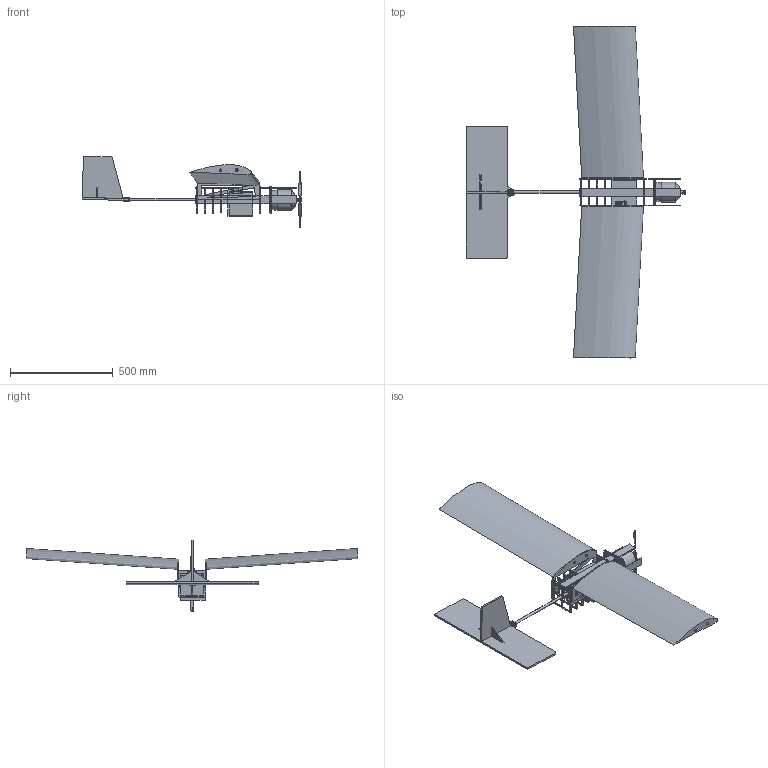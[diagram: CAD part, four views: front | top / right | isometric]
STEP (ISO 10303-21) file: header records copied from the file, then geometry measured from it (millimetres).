
FILE_DESCRIPTION(/* description */ (''),/* implementation_level */ '2;1');
FILE_NAME(/* name */ '3605247e-8c10-4901-b011-8f8c34718495.stp',/* time_stamp */ '2023-08-26T20:50:06Z',/* author */ (''),/* organization */ (''),/* preprocessor_version */ 'ST-DEVELOPER v20',/* originating_system */ 'Autodesk Translation Framework v12.14.0.127',/* authorisation */ '');
FILE_SCHEMA (('AUTOMOTIVE_DESIGN { 1 0 10303 214 3 1 1 }'));
Products named in the file (42): Fuselage v23; Horizontal Wood PIece; Vertical Wood Piece; Boom; BulkHead for boom & wing fixation; BulkHead for boom 1; servo_Payload_release; Component1; Component2; Component3; Component4; Component5; Component6; Component7; Component8; Component9; Component10; Component11; box; M8-1; Motor shield; Propeller; Wing conection; wing; Foam; wing3; Foam (1); Left; motor; Foam(Mirror); Left(Mirror); Wooden Tail Connectors; Wooden Tail Connector 1; Wooden Tail Connector 2; Wooden Tail Connector 3; Wooden Tail Connector 4; Wooden Tail Connector 5; Wooden Tail Connector 6; Wooden Tail Connector 7; Horizontal Tail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
Assembly tree (51 placements, depth 5):
  Fuselage v23
    BulkHead for boom 1  x3
    BulkHead for boom & wing fixation  x3
    Horizontal Wood PIece
    Vertical Wood Piece  x2
    Boom
    servo_Payload_release
      Component1
      Component2
      Component3
      Component4
      Component5
      Component6
      Component7
      Component8
      Component9
      Component10
      Component11
    box
      M8-1
    Motor shield
    motor  x2
    Propeller
    Wing conection
      wing
        Foam
      wing3
        Foam (1)
          Left
    Foam(Mirror)
    Left(Mirror)
    Wooden Tail Connectors
      Wooden Tail Connector 1
      Wooden Tail Connector 2  x2
      Wooden Tail Connector 3
      Wooden Tail Connector 4  x2
      Wooden Tail Connector 5
      Wooden Tail Connector 6  x2
      Wooden Tail Connector 7
    Horizontal Tail
    Vertical Tail
    Holder  x2
Bounding box: 1068.45 x 1613.23 x 349.83 mm (x, y, z)
Volume: 16387072.2 mm3; surface area: 2124119.3 mm2
Topology: 63 solids, 65 shells, 2626 faces, 6756 edges, 4192 vertices
Faces by surface type: plane 1026, cylinder 916, cone 254, bspline 201, sphere 125, torus 104
Full cylindrical faces by diameter (mm): 0.81 x10, 0.864 x2, 0.88 x76, 1.026 x8, 1.053 x1, 1.08 x6, 1.296 x2, 1.35 x6, 1.431 x4, 1.485 x4, 1.62 x13, 2.16 x4, 2.423 x31, 2.7 x1, 3.04 x31, 3.078 x1, 3.2 x1, 3.24 x6, 3.51 x3, 4.681 x6, 5.4 x1, 6.237 x8, 6.685 x1, 10 x2, 11.305 x2, 11.521 x2, 12 x19, 14 x2, 24.57 x2, 24.723 x2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
Entity records: 94558 total; most frequent: CARTESIAN_POINT 36824, DIRECTION 12143, ORIENTED_EDGE 11788, EDGE_CURVE 5898, AXIS2_PLACEMENT_3D 4646, VERTEX_POINT 3698, LINE 2851, VECTOR 2851
